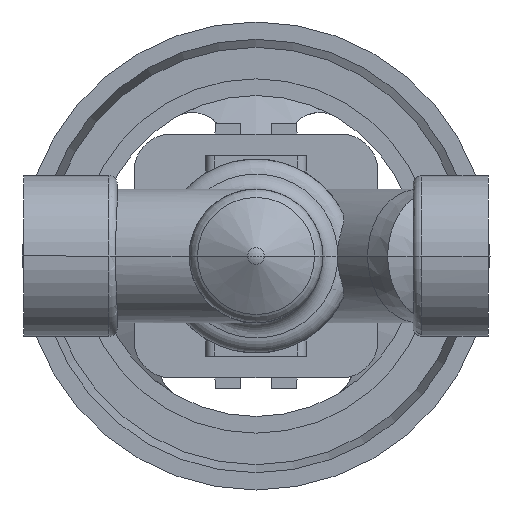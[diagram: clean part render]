
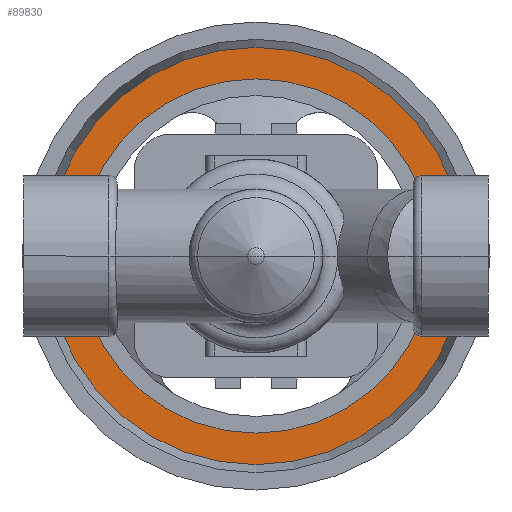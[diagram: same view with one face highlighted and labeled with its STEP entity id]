
A CAD part, front view. The second image highlights one B-rep face of the part: STEP entity #89830.
In plain terms, the highlighted planar face has unit normal (0, -1, 0).
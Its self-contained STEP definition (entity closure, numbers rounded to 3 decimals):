
#89280=CARTESIAN_POINT('',(7.088,241.3,0.));
#89290=VERTEX_POINT('',#89280);
#89320=CARTESIAN_POINT('',(69.5,241.3,0.));
#89330=DIRECTION('',(0.,1.,0.));
#89340=DIRECTION('',(-1.,0.,0.));
#89350=AXIS2_PLACEMENT_3D('',#89320,#89330,#89340);
#89360=CIRCLE('',#89350,62.412);
#89370=CARTESIAN_POINT('',(131.912,241.3,0.))
;
#89380=VERTEX_POINT('',#89370);
#89390=EDGE_CURVE('',#89380,#89290,#89360,.T.);
#89580=CARTESIAN_POINT('',(11.794,241.3,0.))
;
#89590=DIRECTION('',(0.,-1.,0.));
#89600=DIRECTION('',(1.,0.,0.));
#89610=AXIS2_PLACEMENT_3D('',#89580,#89590,#89600);
#89620=PLANE('',#89610);
#89630=ORIENTED_EDGE('',*,*,#89390,.F.);
#89640=EDGE_CURVE('',#89290,#89380,#89360,.T.);
#89650=ORIENTED_EDGE('',*,*,#89640,.F.);
#89660=EDGE_LOOP('',(#89650,#89630));
#89670=FACE_OUTER_BOUND('',#89660,.T.);
#89680=CARTESIAN_POINT('',(69.5,241.3,0.));
#89690=DIRECTION('',(0.,1.,0.));
#89700=DIRECTION('',(-1.,0.,0.));
#89710=AXIS2_PLACEMENT_3D('',#89680,#89690,#89700);
#89720=CIRCLE('',#89710,53.);
#89730=CARTESIAN_POINT('',(16.5,241.3,0.));
#89740=VERTEX_POINT('',#89730);
#89750=CARTESIAN_POINT('',(122.5,241.3,0.));
#89760=VERTEX_POINT('',#89750);
#89770=EDGE_CURVE('',#89740,#89760,#89720,.T.);
#89780=ORIENTED_EDGE('',*,*,#89770,.T.);
#89790=EDGE_CURVE('',#89760,#89740,#89720,.T.);
#89800=ORIENTED_EDGE('',*,*,#89790,.T.);
#89810=EDGE_LOOP('',(#89800,#89780));
#89820=FACE_BOUND('',#89810,.T.);
#89830=ADVANCED_FACE('',(#89670,#89820),#89620,.T.);
